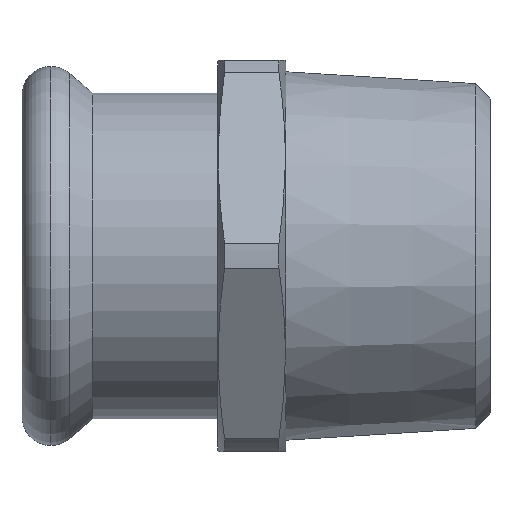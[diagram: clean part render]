
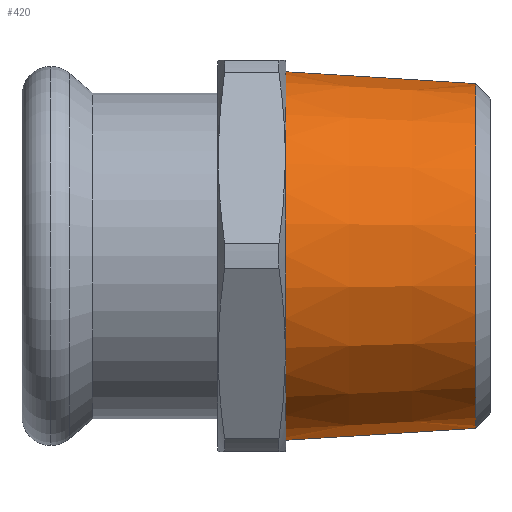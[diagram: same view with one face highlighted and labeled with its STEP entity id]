
A CAD part, top view. The second image highlights one B-rep face of the part: STEP entity #420.
In plain terms, the highlighted conical face has half-angle 3.576 degrees and reference radius 21.65 mm.
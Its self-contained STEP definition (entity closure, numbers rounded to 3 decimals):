
#10=CARTESIAN_POINT('',(-75.571,-431.955,
0.));
#20=DIRECTION('',(-1.,0.,0.));
#30=DIRECTION('',(0.,-1.,0.));
#40=AXIS2_PLACEMENT_3D('',#10,#20,#30);
#50=CONICAL_SURFACE('',#40,21.65,0.062);
#60=CARTESIAN_POINT('',(-75.571,-453.605,
0.));
#70=DIRECTION('',(-0.998,-0.062,
0.));
#80=VECTOR('',#70,347.076);
#90=LINE('',#60,#80);
#100=CARTESIAN_POINT('',(-53.267,-452.211,
0.));
#110=VERTEX_POINT('',#100);
#120=CARTESIAN_POINT('',(-75.571,-453.605,
0.));
#130=VERTEX_POINT('',#120);
#140=EDGE_CURVE('',#110,#130,#90,.T.);
#150=ORIENTED_EDGE('',*,*,#140,.F.);
#160=CARTESIAN_POINT('',(-75.571,-431.955,
0.));
#170=DIRECTION('',(-1.,0.,0.));
#180=DIRECTION('',(0.,-1.,0.));
#190=AXIS2_PLACEMENT_3D('',#160,#170,#180);
#200=CIRCLE('',#190,21.65);
#210=CARTESIAN_POINT('',(-75.571,-410.305,
0.));
#220=VERTEX_POINT('',#210);
#230=EDGE_CURVE('',#130,#220,#200,.T.);
#240=ORIENTED_EDGE('',*,*,#230,.F.);
#250=CARTESIAN_POINT('',(-75.571,-410.305,
0.));
#260=DIRECTION('',(-0.998,0.062,
0.));
#270=VECTOR('',#260,347.076);
#280=LINE('',#250,#270);
#290=CARTESIAN_POINT('',(-53.267,-411.699,
0.));
#300=VERTEX_POINT('',#290);
#310=EDGE_CURVE('',#300,#220,#280,.T.);
#320=ORIENTED_EDGE('',*,*,#310,.T.);
#330=CARTESIAN_POINT('',(-53.267,-431.955,
0.));
#340=DIRECTION('',(-1.,0.,0.));
#350=DIRECTION('',(0.,-1.,0.));
#360=AXIS2_PLACEMENT_3D('',#330,#340,#350);
#370=CIRCLE('',#360,20.256);
#380=EDGE_CURVE('',#110,#300,#370,.T.);
#390=ORIENTED_EDGE('',*,*,#380,.T.);
#400=EDGE_LOOP('',(#390,#320,#240,#150));
#410=FACE_OUTER_BOUND('',#400,.T.);
#420=ADVANCED_FACE('',(#410),#50,.T.);
